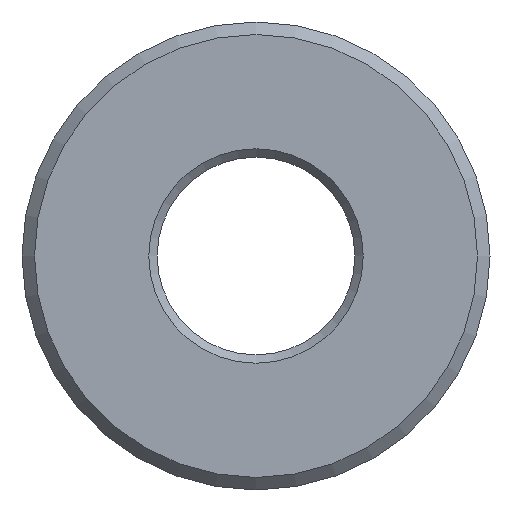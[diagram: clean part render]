
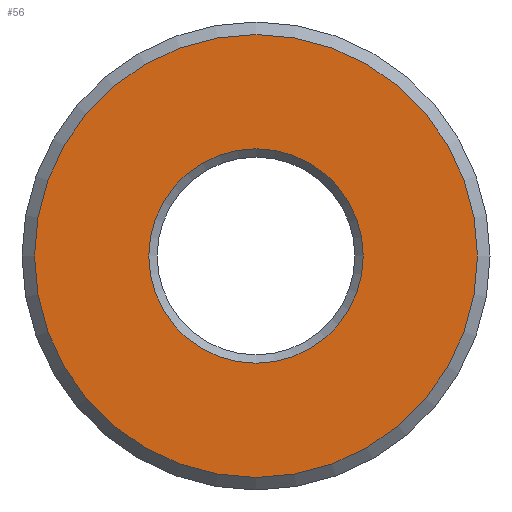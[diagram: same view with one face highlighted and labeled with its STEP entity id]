
A CAD part, left-side view. The second image highlights one B-rep face of the part: STEP entity #56.
In plain terms, the highlighted planar face has unit normal (-1, 0, 0).
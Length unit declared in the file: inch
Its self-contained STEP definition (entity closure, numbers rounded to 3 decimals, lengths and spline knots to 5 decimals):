
#56 = ADVANCED_FACE( '', ( #117, #118 ), #119, .F. );
#117 = FACE_OUTER_BOUND( '', #172, .T. );
#118 = FACE_BOUND( '', #173, .T. );
#119 = PLANE( '', #174 );
#172 = EDGE_LOOP( '', ( #241 ) );
#173 = EDGE_LOOP( '', ( #242 ) );
#174 = AXIS2_PLACEMENT_3D( '', #243, #244, #245 );
#241 = ORIENTED_EDGE( '', *, *, #267, .F. );
#242 = ORIENTED_EDGE( '', *, *, #264, .T. );
#243 = CARTESIAN_POINT( '', ( 0., 0., 0. ) );
#244 = DIRECTION( '', ( 1., 0., 0. ) );
#245 = DIRECTION( '', ( 0., 0., -1. ) );
#264 = EDGE_CURVE( '', #295, #295, #296, .T. );
#267 = EDGE_CURVE( '', #300, #300, #301, .T. );
#295 = VERTEX_POINT( '', #331 );
#296 = CIRCLE( '', #332, 0.12811 );
#300 = VERTEX_POINT( '', #336 );
#301 = CIRCLE( '', #337, 0.26453 );
#331 = CARTESIAN_POINT( '', ( 0., 0., -0.12811 ) );
#332 = AXIS2_PLACEMENT_3D( '', #369, #370, #371 );
#336 = CARTESIAN_POINT( '', ( 0., 0., -0.26453 ) );
#337 = AXIS2_PLACEMENT_3D( '', #375, #376, #377 );
#369 = CARTESIAN_POINT( '', ( 0., 0., 0. ) );
#370 = DIRECTION( '', ( 1., 0., 0. ) );
#371 = DIRECTION( '', ( 0., 0., -1. ) );
#375 = CARTESIAN_POINT( '', ( 0., 0., 0. ) );
#376 = DIRECTION( '', ( 1., 0., 0. ) );
#377 = DIRECTION( '', ( 0., 0., -1. ) );
